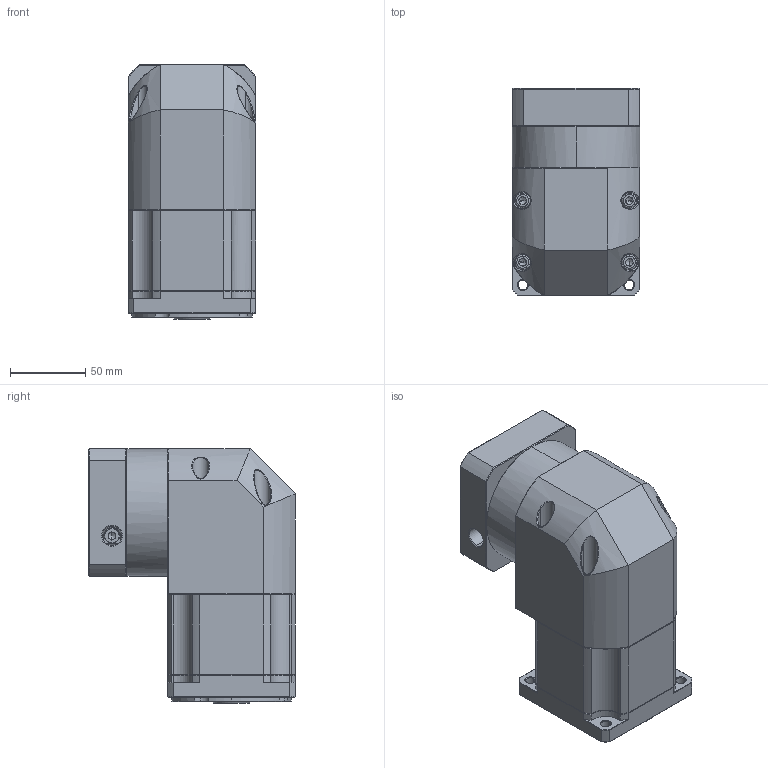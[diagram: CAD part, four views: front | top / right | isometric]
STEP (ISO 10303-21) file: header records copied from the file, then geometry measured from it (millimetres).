
FILE_DESCRIPTION (( 'STEP AP214' ), '1' );
FILE_NAME ('ZBR090-K15-L2-P2-19-70-90-M6.step', '2023-08-19T02:10:43', ( '' ), ( '' ), 'SwSTEP 2.0', 'SolidWorks 2016', '' );
FILE_SCHEMA (( 'AUTOMOTIVE_DESIGN' ));
Length unit declared in the file: millimetre
Products named in the file (1): ZBR090-K15-L2-P2-19-70-90-M6
Bounding box: 85 x 137.6 x 169.5 mm (x, y, z)
Volume: 1290512.3 mm3; surface area: 134148.7 mm2
Topology: 5 solids, 5 shells, 2342 faces, 6120 edges, 3869 vertices
Faces by surface type: plane 1150, bspline 414, cylinder 409, cone 345, torus 24
Entity records: 123765 total; most frequent: CARTESIAN_POINT 43867, ORIENTED_EDGE 12168, DIRECTION 9713, EDGE_CURVE 6084, VECTOR 3909, LINE 3909, VERTEX_POINT 3869, AXIS2_PLACEMENT_3D 2902
